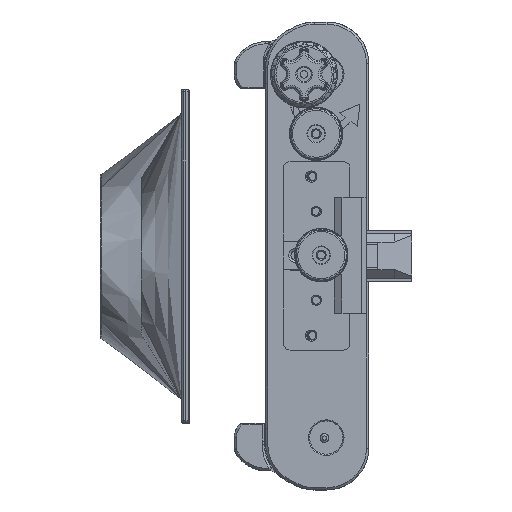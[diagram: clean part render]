
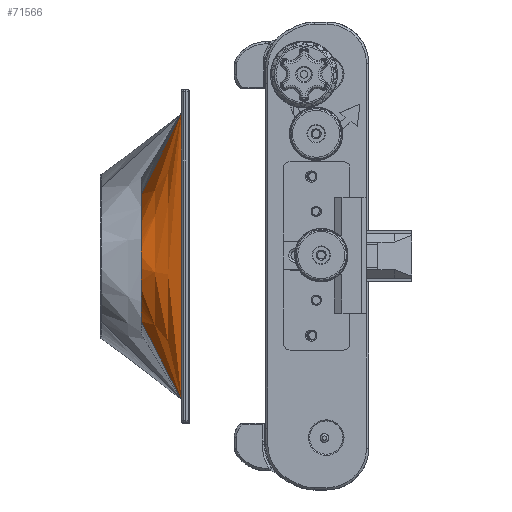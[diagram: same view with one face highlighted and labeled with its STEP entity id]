
A CAD part, top view. The second image highlights one B-rep face of the part: STEP entity #71566.
In plain terms, the highlighted free-form (B-spline) face has degree [3, 3] with [8, 4] control points.
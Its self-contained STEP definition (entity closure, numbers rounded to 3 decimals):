
#1844=B_SPLINE_SURFACE_WITH_KNOTS($,3,3,((#129312,#129313,#129314,#129315),
(#129316,#129317,#129318,#129319),(#129320,#129321,#129322,#129323),(#129324,
#129325,#129326,#129327),(#129328,#129329,#129330,#129331),(#129332,#129333,
#129334,#129335),(#129336,#129337,#129338,#129339),(#129340,#129341,#129342,
#129343)),.UNSPECIFIED.,.F.,.F.,.F.,(4,1,1,1,1,4),(4,4),(0.,0.143,
0.286,0.571,0.857,1.),(0.,1.),
 .UNSPECIFIED.);
#2919=B_SPLINE_CURVE_WITH_KNOTS($,3,(#125767,#125768,#125769,#125770,#125771,
#125772,#125773,#125774,#125775,#125776,#125777,#125778,#125779),
 .UNSPECIFIED.,.F.,.F.,(4,3,3,3,4),(-2.594,-1.627,
-1.297,-0.66,0.),
 .UNSPECIFIED.);
#2946=B_SPLINE_CURVE_WITH_KNOTS($,3,(#128779,#128780,#128781,#128782),
 .UNSPECIFIED.,.F.,.F.,(4,4),(0.,0.642),
 .UNSPECIFIED.);
#2948=B_SPLINE_CURVE_WITH_KNOTS($,3,(#128800,#128801,#128802,#128803,#128804,
#128805,#128806,#128807,#128808,#128809),.UNSPECIFIED.,.F.,.F.,(4,2,2,2,
4),(0.642,1.04,2.068,3.067,
4.069),.UNSPECIFIED.);
#8824=FACE_OUTER_BOUND($,#13387,.T.);
#13387=EDGE_LOOP($,(#61722,#61723,#61724,#61725,#61726,#61727,#61728,#61729,
#61730));
#20035=LINE($,#128882,#26785);
#20038=LINE($,#128912,#26788);
#20046=LINE($,#128972,#26796);
#20053=LINE($,#129045,#26803);
#20103=LINE($,#129310,#26853);
#20105=LINE($,#129344,#26855);
#26785=VECTOR($,#94218,4.569);
#26788=VECTOR($,#94221,0.001);
#26796=VECTOR($,#94229,0.007);
#26803=VECTOR($,#94236,0.001);
#26853=VECTOR($,#94344,12.92);
#26855=VECTOR($,#94346,4.548);
#32675=VERTEX_POINT($,#125764);
#32676=VERTEX_POINT($,#125765);
#32701=VERTEX_POINT($,#128778);
#32705=VERTEX_POINT($,#128789);
#32711=VERTEX_POINT($,#128881);
#32715=VERTEX_POINT($,#128911);
#32723=VERTEX_POINT($,#128954);
#32733=VERTEX_POINT($,#129042);
#32734=VERTEX_POINT($,#129044);
#42399=EDGE_CURVE($,#32676,#32675,#2919,.T.);
#42428=EDGE_CURVE($,#32675,#32701,#2946,.T.);
#42433=EDGE_CURVE($,#32701,#32705,#2948,.T.);
#42440=EDGE_CURVE($,#32711,#32676,#20035,.T.);
#42445=EDGE_CURVE($,#32715,#32711,#20038,.T.);
#42458=EDGE_CURVE($,#32723,#32715,#20046,.T.);
#42470=EDGE_CURVE($,#32734,#32733,#20053,.T.);
#42532=EDGE_CURVE($,#32723,#32733,#20103,.T.);
#42534=EDGE_CURVE($,#32734,#32705,#20105,.T.);
#61722=ORIENTED_EDGE($,*,*,#42399,.T.);
#61723=ORIENTED_EDGE($,*,*,#42428,.T.);
#61724=ORIENTED_EDGE($,*,*,#42433,.T.);
#61725=ORIENTED_EDGE($,*,*,#42534,.F.);
#61726=ORIENTED_EDGE($,*,*,#42470,.T.);
#61727=ORIENTED_EDGE($,*,*,#42532,.F.);
#61728=ORIENTED_EDGE($,*,*,#42458,.T.);
#61729=ORIENTED_EDGE($,*,*,#42445,.T.);
#61730=ORIENTED_EDGE($,*,*,#42440,.T.);
#71566=ADVANCED_FACE($,(#8824),#1844,.F.);
#94218=DIRECTION($,(-0.399,-0.804,-0.441));
#94221=DIRECTION($,(-0.671,0.001,-0.741));
#94229=DIRECTION($,(-0.001,1.,-0.001));
#94236=DIRECTION($,(0.629,0.001,0.777));
#94344=DIRECTION($,(0.,-1.,0.));
#94346=DIRECTION($,(-0.401,0.771,-0.495));
#125764=CARTESIAN_POINT('',(-21.859,17.533,9.21));
#125765=CARTESIAN_POINT('',(-21.859,19.684,7.882));
#125767=CARTESIAN_POINT('Ctrl Pts',(-21.859,19.684,7.882));
#125768=CARTESIAN_POINT('Ctrl Pts',(-21.859,19.49,
8.139));
#125769=CARTESIAN_POINT('Ctrl Pts',(-21.858,19.261,
8.367));
#125770=CARTESIAN_POINT('Ctrl Pts',(-21.858,19.004,
8.561));
#125771=CARTESIAN_POINT('Ctrl Pts',(-21.858,18.917,
8.627));
#125772=CARTESIAN_POINT('Ctrl Pts',(-21.858,18.826,
8.689));
#125773=CARTESIAN_POINT('Ctrl Pts',(-21.859,18.733,8.747));
#125774=CARTESIAN_POINT('Ctrl Pts',(-21.859,18.552,
8.858));
#125775=CARTESIAN_POINT('Ctrl Pts',(-21.859,18.362,
8.953));
#125776=CARTESIAN_POINT('Ctrl Pts',(-21.859,18.165,9.03));
#125777=CARTESIAN_POINT('Ctrl Pts',(-21.859,17.961,9.11));
#125778=CARTESIAN_POINT('Ctrl Pts',(-21.859,17.749,
9.17));
#125779=CARTESIAN_POINT('Ctrl Pts',(-21.859,17.533,
9.21));
#128778=CARTESIAN_POINT('',(-21.859,16.895,9.268));
#128779=CARTESIAN_POINT('Ctrl Pts',(-21.859,17.533,
9.209));
#128780=CARTESIAN_POINT('Ctrl Pts',(-21.859,17.323,
9.248));
#128781=CARTESIAN_POINT('Ctrl Pts',(-21.859,17.109,
9.268));
#128782=CARTESIAN_POINT('Ctrl Pts',(-21.859,16.895,
9.268));
#128789=CARTESIAN_POINT('',(-21.859,13.939,7.644));
#128800=CARTESIAN_POINT('Ctrl Pts',(-21.859,16.895,9.268));
#128801=CARTESIAN_POINT('Ctrl Pts',(-21.859,16.762,
9.269));
#128802=CARTESIAN_POINT('Ctrl Pts',(-21.859,16.629,
9.261));
#128803=CARTESIAN_POINT('Ctrl Pts',(-21.859,16.157,
9.208));
#128804=CARTESIAN_POINT('Ctrl Pts',(-21.859,15.823,9.12));
#128805=CARTESIAN_POINT('Ctrl Pts',(-21.859,15.178,
8.838));
#128806=CARTESIAN_POINT('Ctrl Pts',(-21.859,14.881,
8.653));
#128807=CARTESIAN_POINT('Ctrl Pts',(-21.859,14.353,
8.202));
#128808=CARTESIAN_POINT('Ctrl Pts',(-21.859,14.124,
7.936));
#128809=CARTESIAN_POINT('Ctrl Pts',(-21.859,13.939,
7.644));
#128881=CARTESIAN_POINT('',(-20.037,23.359,9.895));
#128882=CARTESIAN_POINT($,(-20.036,23.36,9.896));
#128911=CARTESIAN_POINT('',(-20.036,23.359,9.896));
#128912=CARTESIAN_POINT($,(-20.036,23.359,9.896));
#128954=CARTESIAN_POINT('',(-20.036,23.351,9.896));
#128972=CARTESIAN_POINT($,(-20.036,23.351,9.896));
#129042=CARTESIAN_POINT('',(-20.036,10.432,9.896));
#129044=CARTESIAN_POINT('',(-20.037,10.432,9.895));
#129045=CARTESIAN_POINT($,(-20.037,10.432,9.895));
#129310=CARTESIAN_POINT($,(-20.036,16.895,9.896));
#129312=CARTESIAN_POINT('Ctrl Pts',(-20.036,23.36,9.896));
#129313=CARTESIAN_POINT('Ctrl Pts',(-20.644,22.135,
9.225));
#129314=CARTESIAN_POINT('Ctrl Pts',(-21.251,20.909,
8.553));
#129315=CARTESIAN_POINT('Ctrl Pts',(-21.859,19.684,
7.882));
#129316=CARTESIAN_POINT('Ctrl Pts',(-20.036,22.744,
9.896));
#129317=CARTESIAN_POINT('Ctrl Pts',(-20.644,21.66,
9.31));
#129318=CARTESIAN_POINT('Ctrl Pts',(-21.251,20.575,
8.724));
#129319=CARTESIAN_POINT('Ctrl Pts',(-21.859,19.49,
8.138));
#129320=CARTESIAN_POINT('Ctrl Pts',(-20.036,21.513,
9.896));
#129321=CARTESIAN_POINT('Ctrl Pts',(-20.644,20.685,
9.463));
#129322=CARTESIAN_POINT('Ctrl Pts',(-21.251,19.858,
9.029));
#129323=CARTESIAN_POINT('Ctrl Pts',(-21.859,19.031,
8.596));
#129324=CARTESIAN_POINT('Ctrl Pts',(-20.036,19.05,9.896));
#129325=CARTESIAN_POINT('Ctrl Pts',(-20.644,18.666,
9.675));
#129326=CARTESIAN_POINT('Ctrl Pts',(-21.251,18.282,
9.453));
#129327=CARTESIAN_POINT('Ctrl Pts',(-21.859,17.899,
9.231));
#129328=CARTESIAN_POINT('Ctrl Pts',(-20.036,15.971,
9.896));
#129329=CARTESIAN_POINT('Ctrl Pts',(-20.644,16.06,
9.728));
#129330=CARTESIAN_POINT('Ctrl Pts',(-21.251,16.149,
9.56));
#129331=CARTESIAN_POINT('Ctrl Pts',(-21.859,16.238,
9.392));
#129332=CARTESIAN_POINT('Ctrl Pts',(-20.036,12.893,
9.896));
#129333=CARTESIAN_POINT('Ctrl Pts',(-20.644,13.508,
9.484));
#129334=CARTESIAN_POINT('Ctrl Pts',(-21.251,14.124,
9.071));
#129335=CARTESIAN_POINT('Ctrl Pts',(-21.859,14.739,
8.659));
#129336=CARTESIAN_POINT('Ctrl Pts',(-20.036,11.046,
9.896));
#129337=CARTESIAN_POINT('Ctrl Pts',(-20.644,12.068,
9.236));
#129338=CARTESIAN_POINT('Ctrl Pts',(-21.251,13.089,
8.576));
#129339=CARTESIAN_POINT('Ctrl Pts',(-21.859,14.111,
7.915));
#129340=CARTESIAN_POINT('Ctrl Pts',(-20.036,10.43,9.896));
#129341=CARTESIAN_POINT('Ctrl Pts',(-20.644,11.6,
9.145));
#129342=CARTESIAN_POINT('Ctrl Pts',(-21.251,12.769,
8.395));
#129343=CARTESIAN_POINT('Ctrl Pts',(-21.859,13.939,
7.644));
#129344=CARTESIAN_POINT($,(-20.036,10.43,9.896));
